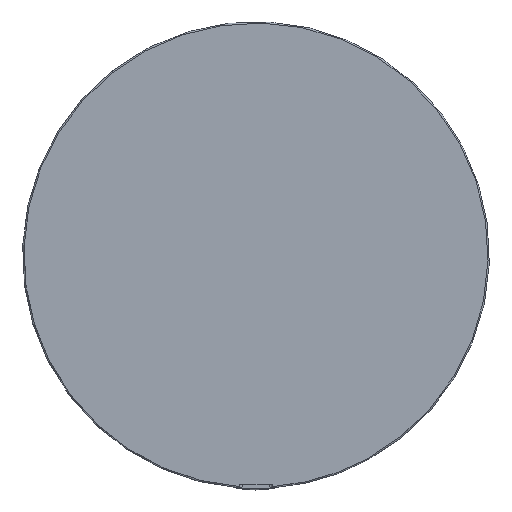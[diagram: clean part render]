
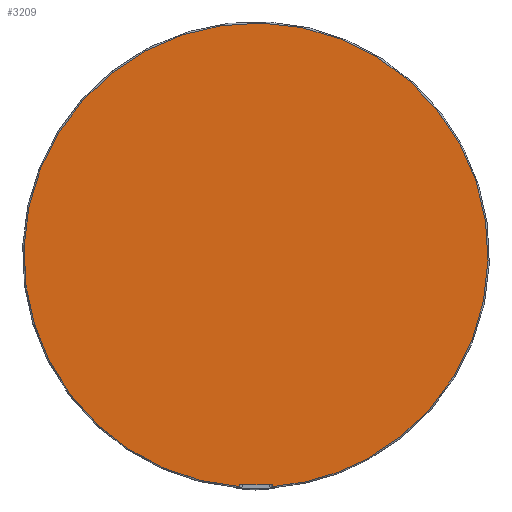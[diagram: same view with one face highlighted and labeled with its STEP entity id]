
A CAD part, left-side view. The second image highlights one B-rep face of the part: STEP entity #3209.
In plain terms, the highlighted planar face has unit normal (-1, 0, 0).
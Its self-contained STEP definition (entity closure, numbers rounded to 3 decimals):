
#5=CARTESIAN_POINT('',(59.,-6.,-83.351));
#7=DIRECTION('',(0.,0.,1.));
#8=VECTOR('',#7,0.936);
#9=CARTESIAN_POINT('',(59.,-6.,-84.287));
#10=LINE('',#9,#8);
#21=CARTESIAN_POINT('',(59.,-6.,-84.287));
#101=CARTESIAN_POINT('',(59.,6.,-84.287));
#115=CARTESIAN_POINT('',(59.,0.,0.));
#116=DIRECTION('',(-1.,0.,0.));
#117=DIRECTION('',(0.,0.072,-0.997));
#118=AXIS2_PLACEMENT_3D('',#115,#116,#117);
#120=DIRECTION('',(0.,0.,1.));
#121=VECTOR('',#120,0.936);
#122=CARTESIAN_POINT('',(59.,6.,-84.287));
#123=LINE('',#122,#121);
#124=CARTESIAN_POINT('',(59.,0.,0.));
#125=DIRECTION('',(-1.,0.,0.));
#126=DIRECTION('',(0.,0.479,0.878));
#127=AXIS2_PLACEMENT_3D('',#124,#125,#126);
#129=CARTESIAN_POINT('',(59.,0.,0.));
#130=DIRECTION('',(1.,0.,0.));
#131=DIRECTION('',(0.,0.479,0.878));
#132=AXIS2_PLACEMENT_3D('',#129,#130,#131);
#134=CARTESIAN_POINT('',(59.,0.,0.));
#135=DIRECTION('',(-1.,0.,0.));
#136=DIRECTION('',(0.,-0.071,-0.997));
#137=AXIS2_PLACEMENT_3D('',#134,#135,#136);
#139=CARTESIAN_POINT('',(59.,6.,-83.351));
#2891=VERTEX_POINT('',#21);
#2897=VERTEX_POINT('',#101);
#2899=CARTESIAN_POINT('',(59.,-40.512,-74.156));
#2900=VERTEX_POINT('',#2899);
#2901=CARTESIAN_POINT('',(59.,40.512,74.156));
#2902=VERTEX_POINT('',#2901);
#2932=VERTEX_POINT('',#5);
#2937=VERTEX_POINT('',#139);
#3193=CARTESIAN_POINT('',(59.,0.,83.));
#3194=DIRECTION('',(-1.,0.,0.));
#3195=DIRECTION('',(0.,1.,0.));
#3196=AXIS2_PLACEMENT_3D('',#3193,#3194,#3195);
#3197=PLANE('',#3196);
#3198=ORIENTED_EDGE('',*,*,#3102,.T.);
#3199=ORIENTED_EDGE('',*,*,#3129,.F.);
#3201=ORIENTED_EDGE('',*,*,#3200,.F.);
#3202=ORIENTED_EDGE('',*,*,#3179,.F.);
#3204=ORIENTED_EDGE('',*,*,#3203,.T.);
#3206=ORIENTED_EDGE('',*,*,#3205,.F.);
#3207=EDGE_LOOP('',(#3198,#3199,#3201,#3202,#3204,#3206));
#3208=FACE_OUTER_BOUND('',#3207,.F.);
#3209=ADVANCED_FACE('',(#3208),#3197,.T.);
#119=CIRCLE('',#118,83.567);
#128=CIRCLE('',#127,84.5);
#133=CIRCLE('',#132,84.5);
#138=CIRCLE('',#137,84.5);
#3102=EDGE_CURVE('',#2891,#2932,#10,.T.);
#3129=EDGE_CURVE('',#2937,#2932,#119,.T.);
#3179=EDGE_CURVE('',#2902,#2897,#128,.T.);
#3200=EDGE_CURVE('',#2897,#2937,#123,.T.);
#3203=EDGE_CURVE('',#2902,#2900,#133,.T.);
#3205=EDGE_CURVE('',#2891,#2900,#138,.T.);
